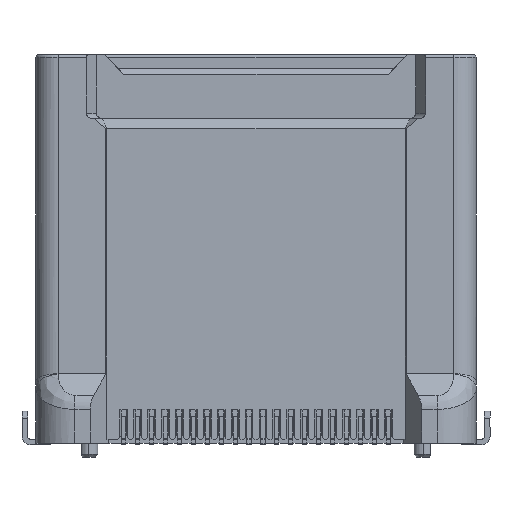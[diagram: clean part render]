
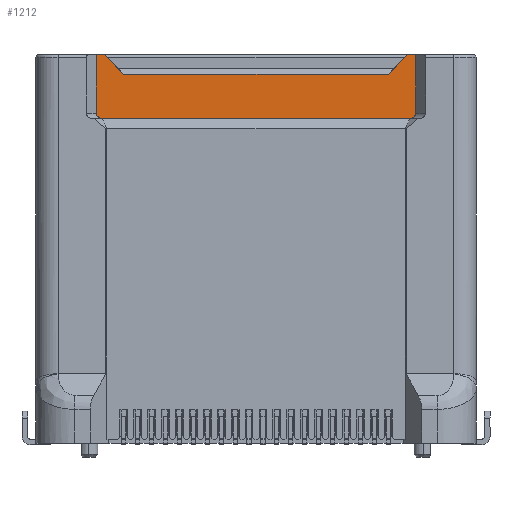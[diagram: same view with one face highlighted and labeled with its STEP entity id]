
A CAD part, left-side view. The second image highlights one B-rep face of the part: STEP entity #1212.
In plain terms, the highlighted planar face has unit normal (-1, 0, 0).
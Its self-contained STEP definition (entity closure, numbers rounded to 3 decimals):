
#26 = DIRECTION ( 'NONE',  ( 0., -1., 0. ) ) ;
#211 = CARTESIAN_POINT ( 'NONE',  ( -2.2, -5.45, 14.25 ) ) ;
#747 = EDGE_CURVE ( 'NONE', #32732, #22508, #17285, .T. ) ;
#963 = CARTESIAN_POINT ( 'NONE',  ( -2.2, -5.613, 11.969 ) ) ;
#1212 = ADVANCED_FACE ( 'NONE', ( #2098 ), #25475, .F. ) ;
#1655 = LINE ( 'NONE', #13425, #22962 ) ;
#2098 = FACE_OUTER_BOUND ( 'NONE', #9788, .T. ) ;
#2432 = ORIENTED_EDGE ( 'NONE', *, *, #747, .F. ) ;
#2468 = ORIENTED_EDGE ( 'NONE', *, *, #13905, .T. ) ;
#2537 = EDGE_CURVE ( 'NONE', #9487, #25967, #5382, .T. ) ;
#2978 = LINE ( 'NONE', #24344, #25090 ) ;
#3802 = CARTESIAN_POINT ( 'NONE',  ( -2.2, -5.732, 11.95 ) ) ;
#4830 = ORIENTED_EDGE ( 'NONE', *, *, #23560, .T. ) ;
#5382 = B_SPLINE_CURVE_WITH_KNOTS ( 'NONE', 3,
 ( #27173, #8374, #963, #26930, #13748, #24080 ),
 .UNSPECIFIED., .F., .F.,
 ( 4, 2, 4 ),
 ( 0., 0.5, 1. ),
 .UNSPECIFIED. ) ;
#5622 = EDGE_CURVE ( 'NONE', #20713, #7980, #23770, .T. ) ;
#5746 = AXIS2_PLACEMENT_3D ( 'NONE', #27571, #33055, #17367 ) ;
#6290 = VERTEX_POINT ( 'NONE', #13122 ) ;
#6560 = CARTESIAN_POINT ( 'NONE',  ( -2.2, -5.488, 11.95 ) ) ;
#6889 = VERTEX_POINT ( 'NONE', #11368 ) ;
#7107 = CARTESIAN_POINT ( 'NONE',  ( -2.2, 5.658, 12.006 ) ) ;
#7346 = CARTESIAN_POINT ( 'NONE',  ( -2.2, 5.622, 11.983 ) ) ;
#7726 = ORIENTED_EDGE ( 'NONE', *, *, #5622, .F. ) ;
#7953 = EDGE_CURVE ( 'NONE', #6290, #12104, #22610, .T. ) ;
#7980 = VERTEX_POINT ( 'NONE', #12600 ) ;
#8374 = CARTESIAN_POINT ( 'NONE',  ( -2.2, -5.556, 11.95 ) ) ;
#8928 = CARTESIAN_POINT ( 'NONE',  ( -2.2, 5.732, 13.55 ) ) ;
#9487 = VERTEX_POINT ( 'NONE', #6560 ) ;
#9574 = DIRECTION ( 'NONE',  ( 0., -1., 0. ) ) ;
#9788 = EDGE_LOOP ( 'NONE', ( #4830, #7726, #2468, #30427, #2432, #33120, #17508, #14373, #25708, #31363 ) ) ;
#9952 = VECTOR ( 'NONE', #9574, 1000. ) ;
#10204 = CARTESIAN_POINT ( 'NONE',  ( -2.2, 5.732, 12.15 ) ) ;
#10625 = VECTOR ( 'NONE', #26, 1000. ) ;
#11155 = DIRECTION ( 'NONE',  ( 0., 1., 0. ) ) ;
#11368 = CARTESIAN_POINT ( 'NONE',  ( -2.2, 5.732, 14.25 ) ) ;
#11685 = CARTESIAN_POINT ( 'NONE',  ( -2.2, 5.45, 14.25 ) ) ;
#11873 = CARTESIAN_POINT ( 'NONE',  ( -2.2, -5.45, 14.25 ) ) ;
#12104 = VERTEX_POINT ( 'NONE', #10204 ) ;
#12600 = CARTESIAN_POINT ( 'NONE',  ( -2.2, -5.732, 14.25 ) ) ;
#12635 = EDGE_CURVE ( 'NONE', #6889, #32732, #16113, .T. ) ;
#13122 = CARTESIAN_POINT ( 'NONE',  ( -2.2, 5.488, 11.95 ) ) ;
#13425 = CARTESIAN_POINT ( 'NONE',  ( -2.2, 5.732, 11.95 ) ) ;
#13748 = CARTESIAN_POINT ( 'NONE',  ( -2.2, -5.732, 12.095 ) ) ;
#13890 = CARTESIAN_POINT ( 'NONE',  ( -2.2, -5.732, 12.15 ) ) ;
#13905 = EDGE_CURVE ( 'NONE', #20713, #25879, #16431, .T. ) ;
#14373 = ORIENTED_EDGE ( 'NONE', *, *, #7953, .F. ) ;
#14636 = LINE ( 'NONE', #3802, #15861 ) ;
#15861 = VECTOR ( 'NONE', #30034, 1000. ) ;
#16113 = LINE ( 'NONE', #33207, #9952 ) ;
#16431 = LINE ( 'NONE', #211, #29986 ) ;
#16795 = CARTESIAN_POINT ( 'NONE',  ( -2.2, 5.45, 14.25 ) ) ;
#17285 = LINE ( 'NONE', #11685, #21400 ) ;
#17367 = DIRECTION ( 'NONE',  ( 0., 0., -1. ) ) ;
#17370 = CARTESIAN_POINT ( 'NONE',  ( -2.2, 4.75, 13.55 ) ) ;
#17508 = ORIENTED_EDGE ( 'NONE', *, *, #32943, .T. ) ;
#17779 = CARTESIAN_POINT ( 'NONE',  ( -2.2, 5.732, 12.101 ) ) ;
#19647 = EDGE_CURVE ( 'NONE', #9487, #6290, #2978, .T. ) ;
#20289 = CARTESIAN_POINT ( 'NONE',  ( -2.2, 5.638, 11.992 ) ) ;
#20519 = CARTESIAN_POINT ( 'NONE',  ( -2.2, 5.566, 11.959 ) ) ;
#20713 = VERTEX_POINT ( 'NONE', #11873 ) ;
#21231 = VECTOR ( 'NONE', #27062, 1000. ) ;
#21357 = DIRECTION ( 'NONE',  ( 0., 0., -1. ) ) ;
#21400 = VECTOR ( 'NONE', #22140, 1000. ) ;
#22140 = DIRECTION ( 'NONE',  ( 0., -0.707, -0.707 ) ) ;
#22508 = VERTEX_POINT ( 'NONE', #17370 ) ;
#22610 = B_SPLINE_CURVE_WITH_KNOTS ( 'NONE', 3,
 ( #22823, #25446, #20519, #25554, #7346, #20289, #28206, #25332, #22956, #7107, #30954, #17779, #30851 ),
 .UNSPECIFIED., .F., .F.,
 ( 4, 2, 2, 1, 2, 2, 4 ),
 ( 0., 0.25, 0.375, 0.437, 0.469, 0.5, 1. ),
 .UNSPECIFIED. ) ;
#22823 = CARTESIAN_POINT ( 'NONE',  ( -2.2, 5.488, 11.95 ) ) ;
#22956 = CARTESIAN_POINT ( 'NONE',  ( -2.2, 5.657, 12.005 ) ) ;
#22962 = VECTOR ( 'NONE', #21357, 1000. ) ;
#23560 = EDGE_CURVE ( 'NONE', #25967, #7980, #14636, .T. ) ;
#23770 = LINE ( 'NONE', #33560, #10625 ) ;
#24080 = CARTESIAN_POINT ( 'NONE',  ( -2.2, -5.732, 12.15 ) ) ;
#24344 = CARTESIAN_POINT ( 'NONE',  ( -2.2, 5.732, 11.95 ) ) ;
#25090 = VECTOR ( 'NONE', #11155, 1000. ) ;
#25332 = CARTESIAN_POINT ( 'NONE',  ( -2.2, 5.652, 12.002 ) ) ;
#25446 = CARTESIAN_POINT ( 'NONE',  ( -2.2, 5.53, 11.95 ) ) ;
#25475 = PLANE ( 'NONE',  #5746 ) ;
#25554 = CARTESIAN_POINT ( 'NONE',  ( -2.2, 5.609, 11.976 ) ) ;
#25708 = ORIENTED_EDGE ( 'NONE', *, *, #19647, .F. ) ;
#25879 = VERTEX_POINT ( 'NONE', #29496 ) ;
#25967 = VERTEX_POINT ( 'NONE', #13890 ) ;
#26930 = CARTESIAN_POINT ( 'NONE',  ( -2.2, -5.708, 12.048 ) ) ;
#27062 = DIRECTION ( 'NONE',  ( 0., -1., 0. ) ) ;
#27173 = CARTESIAN_POINT ( 'NONE',  ( -2.2, -5.488, 11.95 ) ) ;
#27571 = CARTESIAN_POINT ( 'NONE',  ( -2.2, 5.732, 11.95 ) ) ;
#28194 = LINE ( 'NONE', #8928, #21231 ) ;
#28206 = CARTESIAN_POINT ( 'NONE',  ( -2.2, 5.646, 11.997 ) ) ;
#28276 = EDGE_CURVE ( 'NONE', #22508, #25879, #28194, .T. ) ;
#28721 = DIRECTION ( 'NONE',  ( 0., 0.707, -0.707 ) ) ;
#29496 = CARTESIAN_POINT ( 'NONE',  ( -2.2, -4.75, 13.55 ) ) ;
#29986 = VECTOR ( 'NONE', #28721, 1000. ) ;
#30034 = DIRECTION ( 'NONE',  ( 0., 0., 1. ) ) ;
#30427 = ORIENTED_EDGE ( 'NONE', *, *, #28276, .F. ) ;
#30851 = CARTESIAN_POINT ( 'NONE',  ( -2.2, 5.732, 12.15 ) ) ;
#30954 = CARTESIAN_POINT ( 'NONE',  ( -2.2, 5.708, 12.048 ) ) ;
#31363 = ORIENTED_EDGE ( 'NONE', *, *, #2537, .T. ) ;
#32732 = VERTEX_POINT ( 'NONE', #16795 ) ;
#32943 = EDGE_CURVE ( 'NONE', #6889, #12104, #1655, .T. ) ;
#33055 = DIRECTION ( 'NONE',  ( 1., 0., 0. ) ) ;
#33120 = ORIENTED_EDGE ( 'NONE', *, *, #12635, .F. ) ;
#33207 = CARTESIAN_POINT ( 'NONE',  ( -2.2, 5.732, 14.25 ) ) ;
#33560 = CARTESIAN_POINT ( 'NONE',  ( -2.2, 5.732, 14.25 ) ) ;
